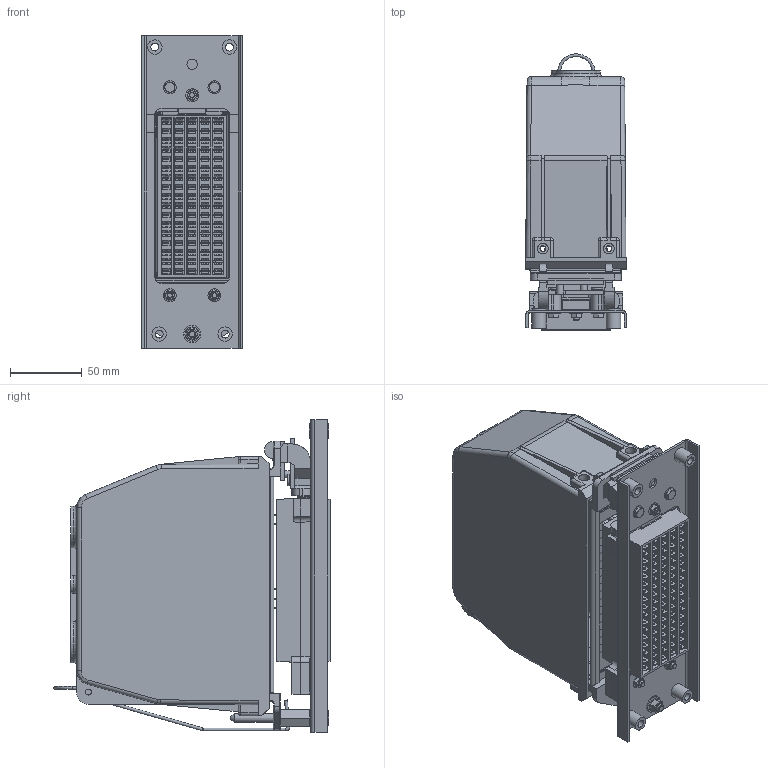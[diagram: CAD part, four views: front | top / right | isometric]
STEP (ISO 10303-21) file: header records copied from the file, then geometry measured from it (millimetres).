
FILE_DESCRIPTION((''),'2;1');
FILE_NAME('Z:\Relais\Affaires\Relais type RM40\Relais 401\Relais 401.stp','2012-03-09T10:03:59',('lm'),(''),'Autodesk Inventor 2012','Autodesk Inventor 2012','');
FILE_SCHEMA(('AUTOMOTIVE_DESIGN { 1 0 10303 214 1 1 1 1 }'));
Length unit declared in the file: millimetre
Products named in the file (1): 929422_Enveloppe_1
Bounding box: 70.2 x 192.56 x 218 mm (x, y, z)
Surface area: 213070.2 mm2 (no closed solid volume)
Topology: 0 solids, 420 shells, 1002 faces, 7793 edges, 7172 vertices
Faces by surface type: plane 757, cylinder 185, torus 25, bspline 14, cone 13, sphere 8
Full cylindrical faces by diameter (mm): 2 x6, 3.1 x2, 4 x3, 4.2 x1, 5 x4, 5.5 x4, 6 x1, 7.2 x1, 7.5 x4, 8 x2, 9.945 x4, 10 x4, 12 x1, 21 x2
Entity records: 76088 total; most frequent: CARTESIAN_POINT 16987, DIRECTION 10279, ORIENTED_EDGE 8973, EDGE_CURVE 7710, VERTEX_POINT 7146, VECTOR 6783, LINE 6783, AXIS2_PLACEMENT_3D 1748
